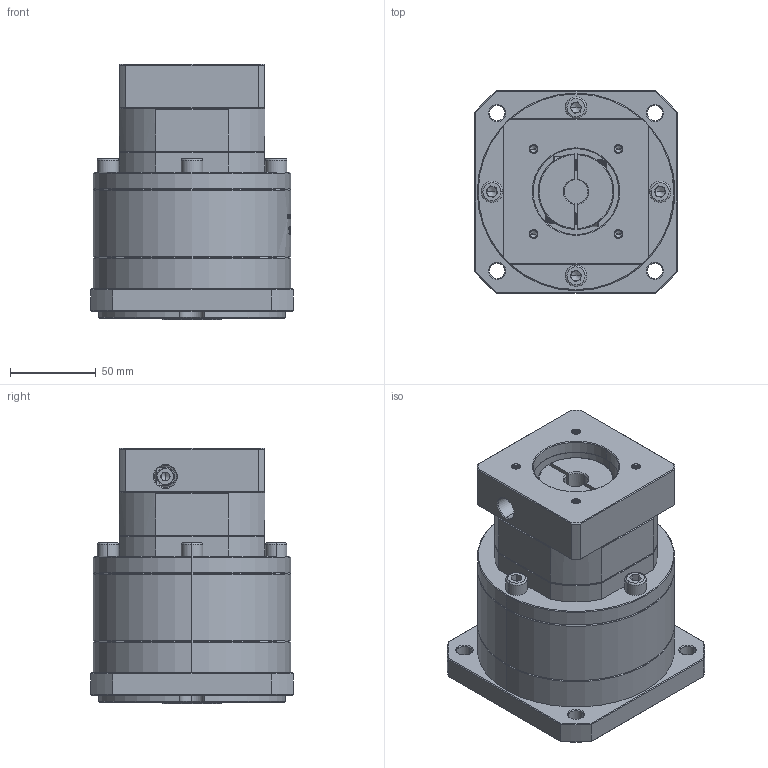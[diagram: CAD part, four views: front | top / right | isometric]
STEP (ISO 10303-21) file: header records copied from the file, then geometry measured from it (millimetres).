
FILE_DESCRIPTION (( 'STEP AP214' ), '1' );
FILE_NAME ('ZF120A-K25-L2-14-50-70-M5.step', '2023-03-07T15:03:16', ( '' ), ( 'Microsoft' ), 'SwSTEP 2.0', 'SolidWorks 2016', '' );
FILE_SCHEMA (( 'AUTOMOTIVE_DESIGN' ));
Length unit declared in the file: millimetre
Products named in the file (1): ZF120A-K25-L2-14-50-70-M5
Bounding box: 118 x 118 x 149 mm (x, y, z)
Volume: 1250759 mm3; surface area: 124585.6 mm2
Topology: 5 solids, 6 shells, 1886 faces, 4962 edges, 3168 vertices
Faces by surface type: plane 876, cylinder 369, bspline 327, cone 314
Entity records: 100276 total; most frequent: CARTESIAN_POINT 36614, ORIENTED_EDGE 9868, DIRECTION 7621, EDGE_CURVE 4934, VERTEX_POINT 3168, LINE 2711, VECTOR 2711, AXIS2_PLACEMENT_3D 2455
